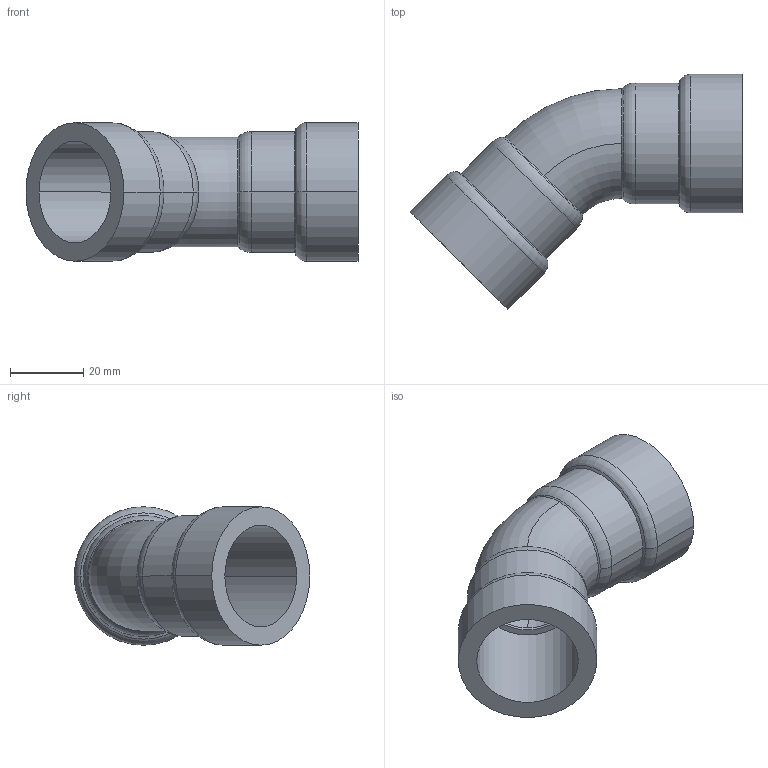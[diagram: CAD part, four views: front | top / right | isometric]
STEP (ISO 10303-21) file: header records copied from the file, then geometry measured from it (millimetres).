
FILE_DESCRIPTION(('Creo Elements/Direct Modeling STEP Export'),'2;1');
FILE_NAME('C9413_3-4.stp','2020-07-03T 8:43:21',(''),(''),'PTC Creo Elements/Direct Modeling STEP processor for AP214 (Solid Model)','PTC Creo Elements/Direct Modeling 19.0C 15-Aug-2015 (C) Parametric Technology GmbH','');
FILE_SCHEMA(('AUTOMOTIVE_DESIGN { 1 0 10303 214 1 1 1 1 }'));
Length unit declared in the file: millimetre
Products named in the file (1): C9413_3-4
Bounding box: 90.86 x 64.44 x 37.9 mm (x, y, z)
Volume: 31033.2 mm3; surface area: 18721.9 mm2
Topology: 1 solids, 1 shells, 40 faces, 88 edges, 52 vertices
Faces by surface type: cylinder 16, torus 12, cone 8, plane 4
Entity records: 992 total; most frequent: ORIENTED_EDGE 176, DIRECTION 174, CARTESIAN_POINT 151, EDGE_CURVE 88, AXIS2_PLACEMENT_3D 75, VERTEX_POINT 52, EDGE_LOOP 44, FACE_OUTER_BOUND 40
